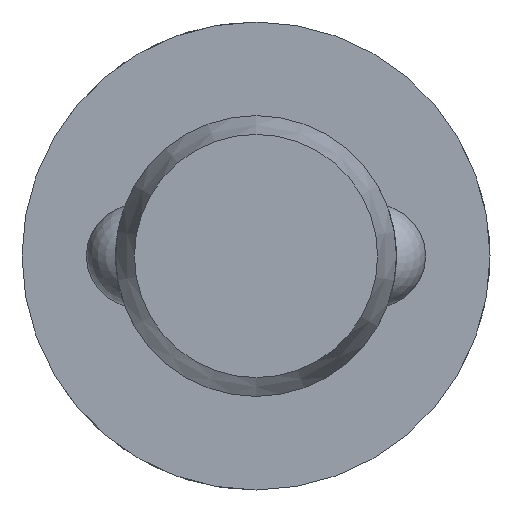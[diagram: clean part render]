
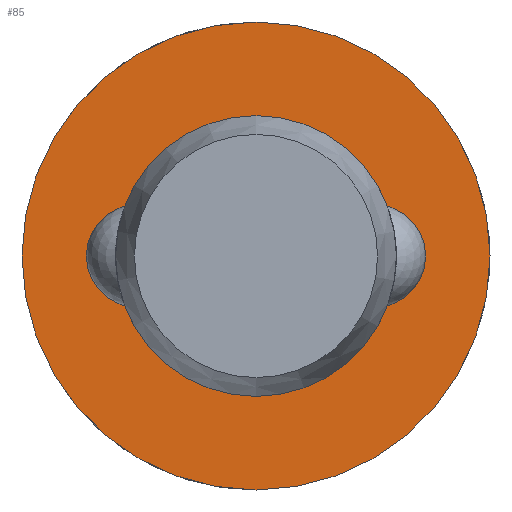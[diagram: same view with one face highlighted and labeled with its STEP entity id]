
A CAD part, left-side view. The second image highlights one B-rep face of the part: STEP entity #85.
In plain terms, the highlighted planar face has unit normal (-1, 0, 0).
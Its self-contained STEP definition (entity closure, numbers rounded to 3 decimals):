
#85 = ADVANCED_FACE( '', ( #130, #131 ), #132, .F. );
#130 = FACE_OUTER_BOUND( '', #201, .T. );
#131 = FACE_BOUND( '', #202, .T. );
#132 = PLANE( '', #203 );
#201 = EDGE_LOOP( '', ( #317 ) );
#202 = EDGE_LOOP( '', ( #318 ) );
#203 = AXIS2_PLACEMENT_3D( '', #319, #320, #321 );
#317 = ORIENTED_EDGE( '', *, *, #461, .F. );
#318 = ORIENTED_EDGE( '', *, *, #458, .T. );
#319 = CARTESIAN_POINT( '', ( 40.6, 6., 0. ) );
#320 = DIRECTION( '', ( 1., 0., 0. ) );
#321 = DIRECTION( '', ( 0., 0., -1. ) );
#458 = EDGE_CURVE( '', #532, #532, #533, .T. );
#461 = EDGE_CURVE( '', #538, #538, #539, .T. );
#532 = VERTEX_POINT( '', #742 );
#533 = CIRCLE( '', #743, 6. );
#538 = VERTEX_POINT( '', #858 );
#539 = CIRCLE( '', #859, 10. );
#742 = CARTESIAN_POINT( '', ( 40.6, 0., -6. ) );
#743 = AXIS2_PLACEMENT_3D( '', #936, #937, #938 );
#858 = CARTESIAN_POINT( '', ( 40.6, 0., -10. ) );
#859 = AXIS2_PLACEMENT_3D( '', #939, #940, #941 );
#936 = CARTESIAN_POINT( '', ( 40.6, 0., 0. ) );
#937 = DIRECTION( '', ( 1., 0., 0. ) );
#938 = DIRECTION( '', ( 0., 0., -1. ) );
#939 = CARTESIAN_POINT( '', ( 40.6, 0., 0. ) );
#940 = DIRECTION( '', ( 1., 0., 0. ) );
#941 = DIRECTION( '', ( 0., 0., -1. ) );
